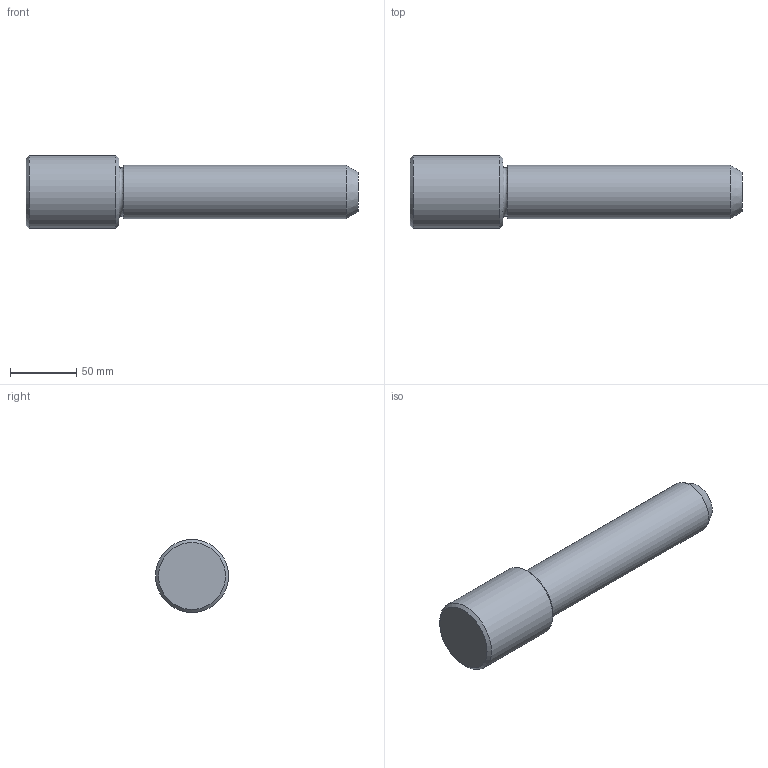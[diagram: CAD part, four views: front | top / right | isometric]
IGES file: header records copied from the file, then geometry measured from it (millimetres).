
Global section: file name: C340250.ipt; native system: Autodesk Inventor 2021; preprocessor: unknown; author: SM; date: 20211221.121137; units: millimetre
Bounding box: 250 x 55 x 55 mm (x, y, z)
Volume: 388516.2 mm3; surface area: 38658.1 mm2
Topology: 1 solids, 1 shells, 9 faces, 16 edges, 10 vertices
Faces by surface type: cone 3, plane 3, cylinder 2, revolution 1
Full cylindrical faces by diameter (mm): 40 x1, 55 x1
